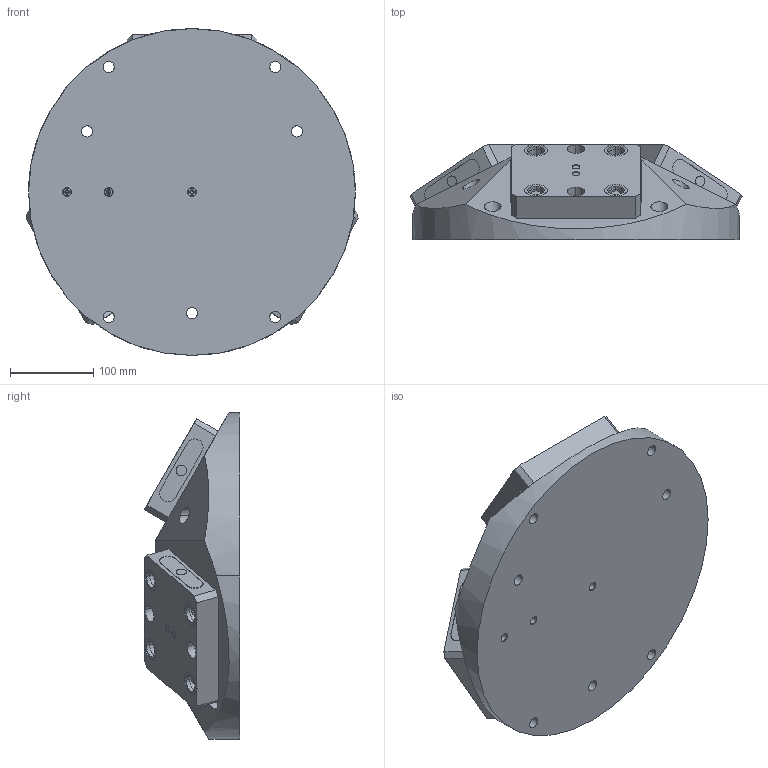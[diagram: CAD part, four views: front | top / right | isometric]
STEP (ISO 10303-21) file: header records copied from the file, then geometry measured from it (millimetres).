
FILE_DESCRIPTION (( 'STEP AP214' ), '1' );
FILE_NAME ('D_PY30RL96-56.STEP', '2020-03-11T16:06:00', ( '' ), ( '' ), 'SwSTEP 2.0', 'SolidWorks 2018', '' );
FILE_SCHEMA (( 'AUTOMOTIVE_DESIGN' ));
Length unit declared in the file: millimetre
Products named in the file (3): D_PY30RL96-56; D_PY30RL96-56_FINISHED PART; D_RL96A-56
Assembly tree (4 placements, depth 2):
  D_PY30RL96-56
    D_PY30RL96-56_FINISHED PART
    D_RL96A-56  x3
Bounding box: 398.64 x 114.63 x 392.43 mm (x, y, z)
Volume: 8544102.4 mm3; surface area: 608978.6 mm2
Topology: 4 solids, 4 shells, 852 faces, 2000 edges, 1267 vertices
Faces by surface type: cylinder 483, plane 251, cone 118
Entity records: 14170 total; most frequent: CARTESIAN_POINT 2714, DIRECTION 2460, ORIENTED_EDGE 2048, EDGE_CURVE 1024, AXIS2_PLACEMENT_3D 1015, VERTEX_POINT 655, EDGE_LOOP 593, CIRCLE 542
